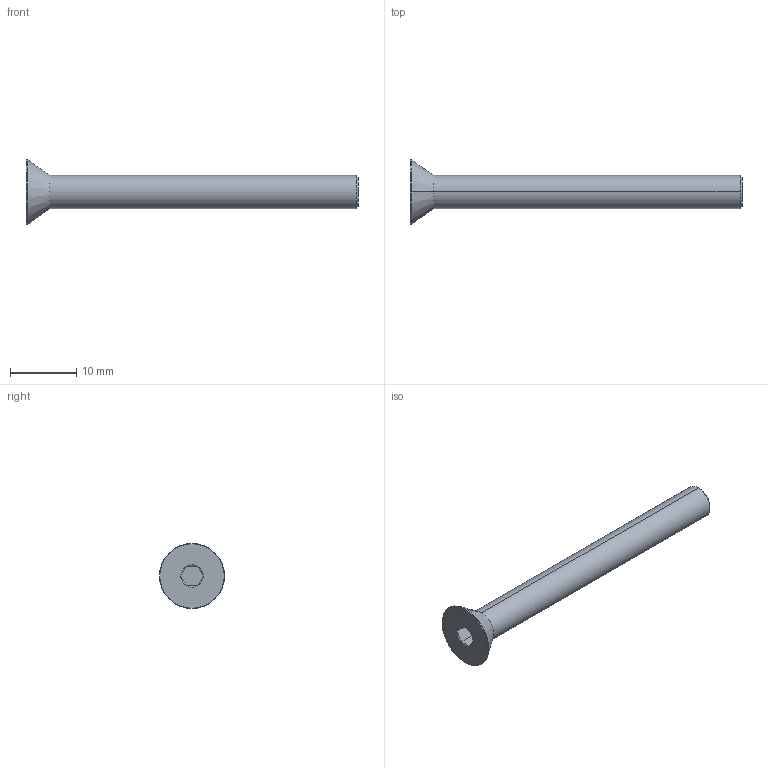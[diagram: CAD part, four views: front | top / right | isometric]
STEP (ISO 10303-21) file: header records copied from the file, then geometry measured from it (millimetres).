
FILE_DESCRIPTION (( 'STEP AP203' ), '1' );
FILE_NAME ('LGDB-TDE-M5x50.STEP', '2026-08-10T11:33:34', ( '' ), ( '' ), 'SwSTEP 2.0', 'SolidWorks 2020', '' );
FILE_SCHEMA (( 'CONFIG_CONTROL_DESIGN' ));
Length unit declared in the file: millimetre
Products named in the file (1): LGDB-TDE-M5x50
Bounding box: 50 x 9.8 x 9.8 mm (x, y, z)
Volume: 1057.2 mm3; surface area: 948.6 mm2
Topology: 1 solids, 1 shells, 28 faces, 53 edges, 28 vertices
Faces by surface type: cone 11, plane 9, torus 4, cylinder 4
Entity records: 784 total; most frequent: CARTESIAN_POINT 145, DIRECTION 129, ORIENTED_EDGE 106, AXIS2_PLACEMENT_3D 54, EDGE_CURVE 53, EDGE_LOOP 29, ADVANCED_FACE 28, FACE_OUTER_BOUND 28
